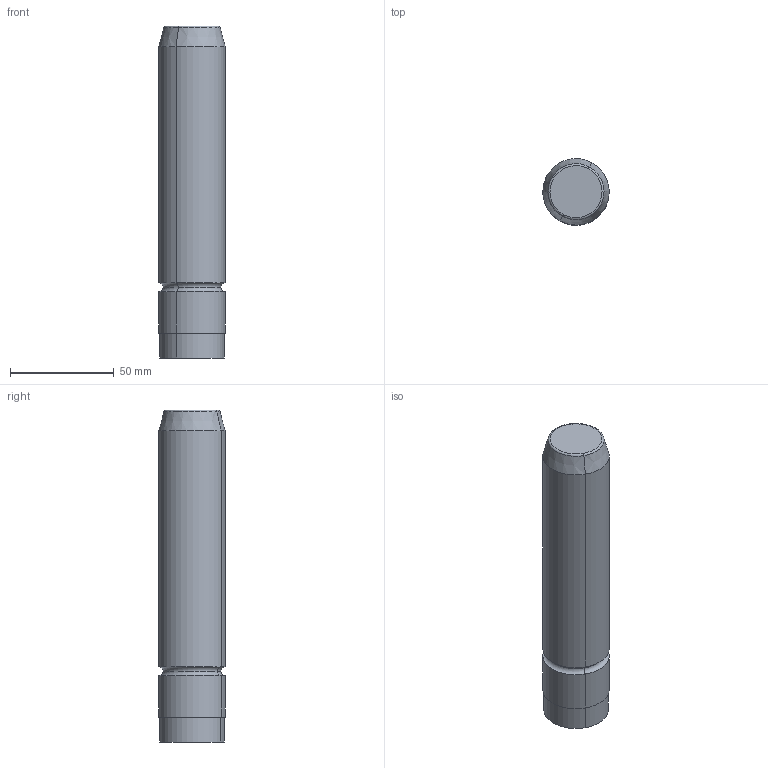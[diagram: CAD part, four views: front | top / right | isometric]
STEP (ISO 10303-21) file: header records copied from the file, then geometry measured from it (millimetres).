
FILE_DESCRIPTION(('CATIA V5 STEP Exchange'),'2;1');
FILE_NAME('C:\Users\Utente\Desktop\IO LAVORO\3D X SITO CF\X SITO\M104\M104-32x160.stp','2020-12-26T21:34:13+00:00',('none'),('none'),'CATIA Version 5 Release 20 GA (IN-10)','CATIA V5 STEP AP203','none');
FILE_SCHEMA(('CONFIG_CONTROL_DESIGN'));
Length unit declared in the file: millimetre
Products named in the file (1): M104-32x160
Bounding box: 31.99 x 31.99 x 160 mm (x, y, z)
Volume: 126147.2 mm3; surface area: 17523.7 mm2
Topology: 1 solids, 1 shells, 17 faces, 32 edges, 18 vertices
Faces by surface type: cylinder 6, torus 6, plane 3, cone 2
Entity records: 438 total; most frequent: CARTESIAN_POINT 66, ORIENTED_EDGE 64, DIRECTION 62, AXIS2_PLACEMENT_3D 40, EDGE_CURVE 32, CIRCLE 24, EDGE_LOOP 18, VERTEX_POINT 18
